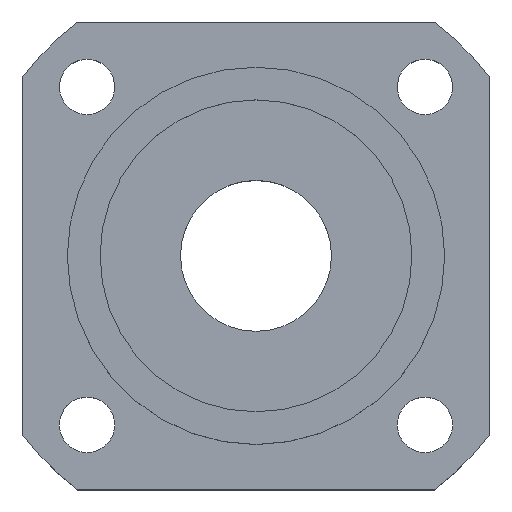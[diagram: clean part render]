
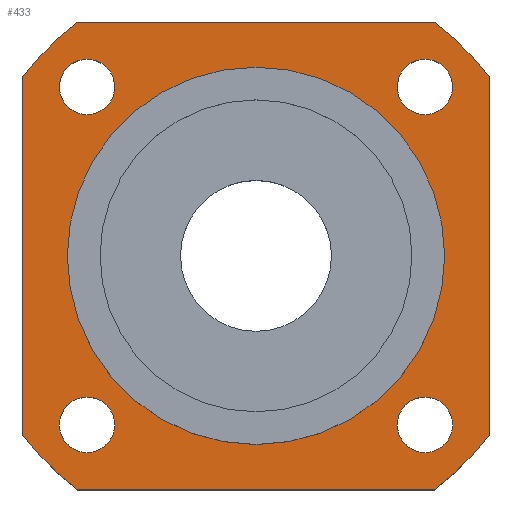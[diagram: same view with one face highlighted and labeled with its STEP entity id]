
A CAD part, top view. The second image highlights one B-rep face of the part: STEP entity #433.
In plain terms, the highlighted planar face has unit normal (0, 0, 1).
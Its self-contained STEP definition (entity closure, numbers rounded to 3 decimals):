
#16=LINE($,#720,#32);
#20=LINE($,#732,#36);
#24=LINE($,#744,#40);
#28=LINE($,#754,#44);
#32=VECTOR($,#598,70.993);
#36=VECTOR($,#610,70.993);
#40=VECTOR($,#622,70.993);
#44=VECTOR($,#634,70.993);
#56=PLANE($,#497);
#80=FACE_BOUND($,#162,.T.);
#81=FACE_BOUND($,#163,.T.);
#82=FACE_BOUND($,#164,.T.);
#83=FACE_BOUND($,#165,.T.);
#84=FACE_BOUND($,#166,.T.);
#85=FACE_BOUND($,#167,.T.);
#162=EDGE_LOOP($,(#364));
#163=EDGE_LOOP($,(#365));
#164=EDGE_LOOP($,(#366));
#165=EDGE_LOOP($,(#367));
#166=EDGE_LOOP($,(#368));
#167=EDGE_LOOP($,(#369,#370,#371,#372,#373,#374,#375,#376));
#183=CIRCLE($,#455,5.5);
#187=CIRCLE($,#462,5.5);
#191=CIRCLE($,#469,5.5);
#195=CIRCLE($,#476,5.5);
#197=CIRCLE($,#479,37.5);
#199=CIRCLE($,#483,58.5);
#201=CIRCLE($,#487,58.5);
#203=CIRCLE($,#491,58.5);
#205=CIRCLE($,#495,58.5);
#215=VERTEX_POINT($,#666);
#219=VERTEX_POINT($,#677);
#223=VERTEX_POINT($,#688);
#227=VERTEX_POINT($,#699);
#229=VERTEX_POINT($,#704);
#232=VERTEX_POINT($,#711);
#233=VERTEX_POINT($,#713);
#235=VERTEX_POINT($,#719);
#237=VERTEX_POINT($,#725);
#239=VERTEX_POINT($,#731);
#241=VERTEX_POINT($,#737);
#243=VERTEX_POINT($,#743);
#245=VERTEX_POINT($,#749);
#255=EDGE_CURVE($,#215,#215,#183,.T.);
#259=EDGE_CURVE($,#219,#219,#187,.T.);
#263=EDGE_CURVE($,#223,#223,#191,.T.);
#267=EDGE_CURVE($,#227,#227,#195,.T.);
#269=EDGE_CURVE($,#229,#229,#197,.T.);
#272=EDGE_CURVE($,#233,#232,#199,.T.);
#275=EDGE_CURVE($,#235,#233,#16,.T.);
#278=EDGE_CURVE($,#237,#235,#201,.T.);
#281=EDGE_CURVE($,#239,#237,#20,.T.);
#284=EDGE_CURVE($,#241,#239,#203,.T.);
#287=EDGE_CURVE($,#243,#241,#24,.T.);
#290=EDGE_CURVE($,#245,#243,#205,.T.);
#293=EDGE_CURVE($,#232,#245,#28,.T.);
#364=ORIENTED_EDGE($,*,*,#255,.T.);
#365=ORIENTED_EDGE($,*,*,#259,.T.);
#366=ORIENTED_EDGE($,*,*,#263,.T.);
#367=ORIENTED_EDGE($,*,*,#267,.T.);
#368=ORIENTED_EDGE($,*,*,#269,.T.);
#369=ORIENTED_EDGE($,*,*,#293,.T.);
#370=ORIENTED_EDGE($,*,*,#290,.T.);
#371=ORIENTED_EDGE($,*,*,#287,.T.);
#372=ORIENTED_EDGE($,*,*,#284,.T.);
#373=ORIENTED_EDGE($,*,*,#281,.T.);
#374=ORIENTED_EDGE($,*,*,#278,.T.);
#375=ORIENTED_EDGE($,*,*,#275,.T.);
#376=ORIENTED_EDGE($,*,*,#272,.T.);
#433=ADVANCED_FACE($,(#80,#81,#82,#83,#84,#85),#56,.T.);
#455=AXIS2_PLACEMENT_3D($,#667,#535,#536);
#462=AXIS2_PLACEMENT_3D($,#678,#549,#550);
#469=AXIS2_PLACEMENT_3D($,#689,#563,#564);
#476=AXIS2_PLACEMENT_3D($,#700,#577,#578);
#479=AXIS2_PLACEMENT_3D($,#705,#583,#584);
#483=AXIS2_PLACEMENT_3D($,#714,#592,#593);
#487=AXIS2_PLACEMENT_3D($,#726,#604,#605);
#491=AXIS2_PLACEMENT_3D($,#738,#616,#617);
#495=AXIS2_PLACEMENT_3D($,#750,#628,#629);
#497=AXIS2_PLACEMENT_3D($,#755,#635,#636);
#535=DIRECTION('center_axis',(0.,0.,-1.));
#536=DIRECTION('ref_axis',(-1.,0.,0.));
#549=DIRECTION('center_axis',(0.,0.,-1.));
#550=DIRECTION('ref_axis',(-1.,0.,0.));
#563=DIRECTION('center_axis',(0.,0.,-1.));
#564=DIRECTION('ref_axis',(-1.,0.,0.));
#577=DIRECTION('center_axis',(0.,0.,-1.));
#578=DIRECTION('ref_axis',(-1.,0.,0.));
#583=DIRECTION('center_axis',(0.,0.,-1.));
#584=DIRECTION('ref_axis',(-1.,0.,0.));
#592=DIRECTION('center_axis',(0.,0.,1.));
#593=DIRECTION('ref_axis',(-0.607,0.795,0.));
#598=DIRECTION($,(-1.,0.,0.));
#604=DIRECTION('center_axis',(0.,0.,1.));
#605=DIRECTION('ref_axis',(0.795,0.607,0.));
#610=DIRECTION($,(0.,1.,0.));
#616=DIRECTION('center_axis',(0.,0.,1.));
#617=DIRECTION('ref_axis',(0.607,-0.795,0.));
#622=DIRECTION($,(1.,0.,0.));
#628=DIRECTION('center_axis',(0.,0.,1.));
#629=DIRECTION('ref_axis',(-0.795,-0.607,0.));
#634=DIRECTION($,(0.,-1.,0.));
#635=DIRECTION('center_axis',(0.,0.,1.));
#636=DIRECTION('ref_axis',(1.,0.,0.));
#666=CARTESIAN_POINT('',(-28.088,-33.588,18.));
#667=CARTESIAN_POINT('Origin',(-33.588,-33.588,18.));
#677=CARTESIAN_POINT('',(39.088,33.588,18.));
#678=CARTESIAN_POINT('Origin',(33.588,33.588,18.));
#688=CARTESIAN_POINT('',(39.088,-33.588,18.));
#689=CARTESIAN_POINT('Origin',(33.588,-33.588,18.));
#699=CARTESIAN_POINT('',(-28.088,33.588,18.));
#700=CARTESIAN_POINT('Origin',(-33.588,33.588,18.));
#704=CARTESIAN_POINT('',(37.5,0.,18.));
#705=CARTESIAN_POINT('Origin',(0.,0.,18.));
#711=CARTESIAN_POINT('',(-46.5,35.496,18.));
#713=CARTESIAN_POINT('',(-35.496,46.5,18.));
#714=CARTESIAN_POINT('Origin',(0.,0.,18.));
#719=CARTESIAN_POINT('',(35.496,46.5,18.));
#720=CARTESIAN_POINT($,(35.496,46.5,18.));
#725=CARTESIAN_POINT('',(46.5,35.496,18.));
#726=CARTESIAN_POINT('Origin',(0.,0.,18.));
#731=CARTESIAN_POINT('',(46.5,-35.496,18.));
#732=CARTESIAN_POINT($,(46.5,-35.496,18.));
#737=CARTESIAN_POINT('',(35.496,-46.5,18.));
#738=CARTESIAN_POINT('Origin',(0.,0.,18.));
#743=CARTESIAN_POINT('',(-35.496,-46.5,18.));
#744=CARTESIAN_POINT($,(-35.496,-46.5,18.));
#749=CARTESIAN_POINT('',(-46.5,-35.496,18.));
#750=CARTESIAN_POINT('Origin',(0.,0.,18.));
#754=CARTESIAN_POINT($,(-46.5,35.496,18.));
#755=CARTESIAN_POINT('Origin',(0.,0.,
18.));
